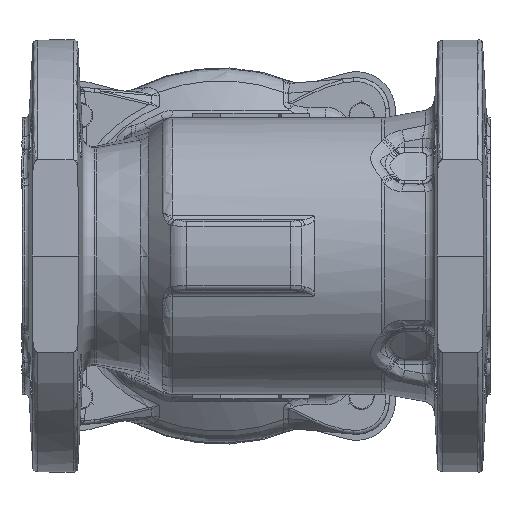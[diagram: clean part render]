
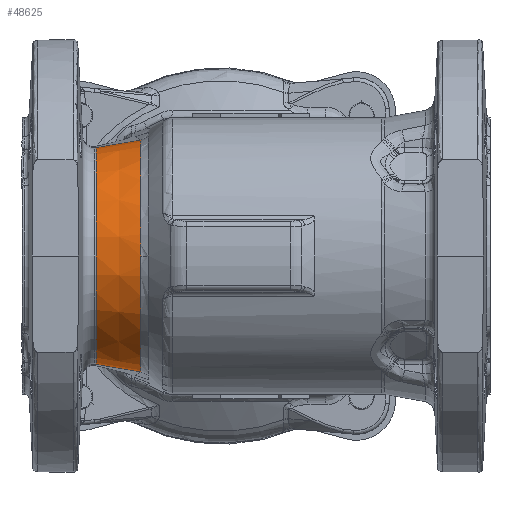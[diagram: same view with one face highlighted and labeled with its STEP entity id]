
A CAD part, front view. The second image highlights one B-rep face of the part: STEP entity #48625.
In plain terms, the highlighted conical face has half-angle 9.62 degrees and reference radius 45.34 mm.
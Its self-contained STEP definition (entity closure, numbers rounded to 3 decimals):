
#5222 = AXIS2_PLACEMENT_3D ( 'NONE', #57490, #57491, #57492 ) ;
#5229 = CONICAL_SURFACE ( 'NONE', #5222, 45.34, 0.168 ) ;
#8382 = CARTESIAN_POINT ( 'NONE',  ( -32.316, 0., -49.826 ) ) ;
#8383 = DIRECTION ( 'NONE',  ( -0.986, 0., 0.167 ) ) ;
#8485 = EDGE_CURVE ( 'NONE', #21690, #21692, #59811, .T. ) ;
#8882 = CARTESIAN_POINT ( 'NONE',  ( -34.2, 0., 49.507 ) ) ;
#8883 = CARTESIAN_POINT ( 'NONE',  ( -34.203, -5.833, 49.501 ) ) ;
#8884 = CARTESIAN_POINT ( 'NONE',  ( -34.203, -11.663, 48.465 ) ) ;
#8885 = CARTESIAN_POINT ( 'NONE',  ( -34.203, -23.823, 43.979 ) ) ;
#8886 = CARTESIAN_POINT ( 'NONE',  ( -34.203, -29.966, 40.047 ) ) ;
#8887 = CARTESIAN_POINT ( 'NONE',  ( -34.203, -40.047, 29.966 ) ) ;
#8888 = CARTESIAN_POINT ( 'NONE',  ( -34.203, -43.979, 23.823 ) ) ;
#8889 = CARTESIAN_POINT ( 'NONE',  ( -34.203, -48.465, 11.663 ) ) ;
#8890 = CARTESIAN_POINT ( 'NONE',  ( -34.203, -49.501, 5.833 ) ) ;
#8891 = CARTESIAN_POINT ( 'NONE',  ( -34.203, -49.507, 0. ) ) ;
#8892 = CARTESIAN_POINT ( 'NONE',  ( -34.2, 0., -49.507 ) ) ;
#8893 = CARTESIAN_POINT ( 'NONE',  ( -34.203, -3.24, -49.507 ) ) ;
#8894 = CARTESIAN_POINT ( 'NONE',  ( -34.203, -6.48, -49.187 ) ) ;
#8895 = CARTESIAN_POINT ( 'NONE',  ( -34.203, -12.836, -47.923 ) ) ;
#8896 = CARTESIAN_POINT ( 'NONE',  ( -34.203, -15.952, -46.978 ) ) ;
#8897 = CARTESIAN_POINT ( 'NONE',  ( -34.203, -21.939, -44.498 ) ) ;
#8898 = CARTESIAN_POINT ( 'NONE',  ( -34.203, -24.81, -42.963 ) ) ;
#8899 = CARTESIAN_POINT ( 'NONE',  ( -34.203, -30.198, -39.363 ) ) ;
#8900 = CARTESIAN_POINT ( 'NONE',  ( -34.203, -32.715, -37.298 ) ) ;
#8901 = CARTESIAN_POINT ( 'NONE',  ( -34.203, -37.298, -32.715 ) ) ;
#8902 = CARTESIAN_POINT ( 'NONE',  ( -34.203, -39.363, -30.198 ) ) ;
#8903 = CARTESIAN_POINT ( 'NONE',  ( -34.203, -42.963, -24.81 ) ) ;
#8904 = CARTESIAN_POINT ( 'NONE',  ( -34.203, -44.498, -21.939 ) ) ;
#8905 = CARTESIAN_POINT ( 'NONE',  ( -34.203, -46.978, -15.952 ) ) ;
#8906 = CARTESIAN_POINT ( 'NONE',  ( -34.203, -47.923, -12.836 ) ) ;
#8907 = CARTESIAN_POINT ( 'NONE',  ( -34.203, -49.187, -6.48 ) ) ;
#8908 = CARTESIAN_POINT ( 'NONE',  ( -34.203, -49.507, -3.24 ) ) ;
#8909 = CARTESIAN_POINT ( 'NONE',  ( -34.203, -49.507, 0. ) ) ;
#8910 = CARTESIAN_POINT ( 'NONE',  ( -32.316, 0., 49.826 ) ) ;
#8911 = DIRECTION ( 'NONE',  ( -0.986, 0., -0.167 ) ) ;
#21690 = VERTEX_POINT ( 'NONE', #61900 ) ;
#21692 = VERTEX_POINT ( 'NONE', #61901 ) ;
#23027 = CARTESIAN_POINT ( 'NONE',  ( -34.2, 0., 49.507 ) ) ;
#23028 = CARTESIAN_POINT ( 'NONE',  ( -34.203, -49.507, 0. ) ) ;
#23061 = CARTESIAN_POINT ( 'NONE',  ( -34.2, 0., -49.507 ) ) ;
#31479 = EDGE_CURVE ( 'NONE', #35589, #21692, #73978, .T. ) ;
#31522 = EDGE_CURVE ( 'NONE', #35555, #35556, #79830, .T. ) ;
#31523 = EDGE_CURVE ( 'NONE', #35589, #35556, #79831, .T. ) ;
#31524 = EDGE_CURVE ( 'NONE', #35555, #21690, #73984, .T. ) ;
#35555 = VERTEX_POINT ( 'NONE', #23027 ) ;
#35556 = VERTEX_POINT ( 'NONE', #23028 ) ;
#35589 = VERTEX_POINT ( 'NONE', #23061 ) ;
#41686 = FACE_OUTER_BOUND ( 'NONE', #47002, .T. ) ;
#47002 = EDGE_LOOP ( 'NONE', ( #49590, #49592, #49591, #49593, #49595 ) ) ;
#48625 = ADVANCED_FACE ( 'NONE', ( #41686 ), #5229, .T. ) ;
#49590 = ORIENTED_EDGE ( 'NONE', *, *, #31523, .T. ) ;
#49591 = ORIENTED_EDGE ( 'NONE', *, *, #31524, .T. ) ;
#49592 = ORIENTED_EDGE ( 'NONE', *, *, #31522, .F. ) ;
#49593 = ORIENTED_EDGE ( 'NONE', *, *, #8485, .T. ) ;
#49595 = ORIENTED_EDGE ( 'NONE', *, *, #31479, .F. ) ;
#57490 = CARTESIAN_POINT ( 'NONE',  ( -58.784, 0., 0. ) ) ;
#57491 = DIRECTION ( 'NONE',  ( 1., 0., 0. ) ) ;
#57492 = DIRECTION ( 'NONE',  ( 0., 0., -1. ) ) ;
#59747 = CARTESIAN_POINT ( 'NONE',  ( -53.249, 0., 0. ) ) ;
#59748 = DIRECTION ( 'NONE',  ( 1., 0., 0. ) ) ;
#59749 = DIRECTION ( 'NONE',  ( 0., 0., -1. ) ) ;
#59811 = CIRCLE ( 'NONE', #59812, 46.278 ) ;
#59812 = AXIS2_PLACEMENT_3D ( 'NONE', #59747, #59748, #59749 ) ;
#61900 = CARTESIAN_POINT ( 'NONE',  ( -53.249, 0., 46.278 ) ) ;
#61901 = CARTESIAN_POINT ( 'NONE',  ( -53.249, 0., -46.278 ) ) ;
#73978 = LINE ( 'NONE', #8382, #79882 ) ;
#73984 = LINE ( 'NONE', #8910, #79908 ) ;
#79830 = B_SPLINE_CURVE_WITH_KNOTS ( 'NONE', 3,
 ( #8882, #8883, #8884, #8885, #8886, #8887, #8888, #8889, #8890, #8891 ),
 .UNSPECIFIED., .F., .F.,
 ( 4, 2, 2, 2, 4 ),
 ( 0., 0.225, 0.5, 0.775, 1. ),
 .UNSPECIFIED. ) ;
#79831 = B_SPLINE_CURVE_WITH_KNOTS ( 'NONE', 3,
 ( #8892, #8893, #8894, #8895, #8896, #8897, #8898, #8899, #8900, #8901, #8902, #8903, #8904, #8905, #8906, #8907, #8908, #8909 ),
 .UNSPECIFIED., .F., .F.,
 ( 4, 2, 2, 2, 2, 2, 2, 2, 4 ),
 ( 0., 0.125, 0.25, 0.375, 0.5, 0.625, 0.75, 0.875, 1. ),
 .UNSPECIFIED. ) ;
#79882 = VECTOR ( 'NONE', #8383, 1000. ) ;
#79908 = VECTOR ( 'NONE', #8911, 1000. ) ;
